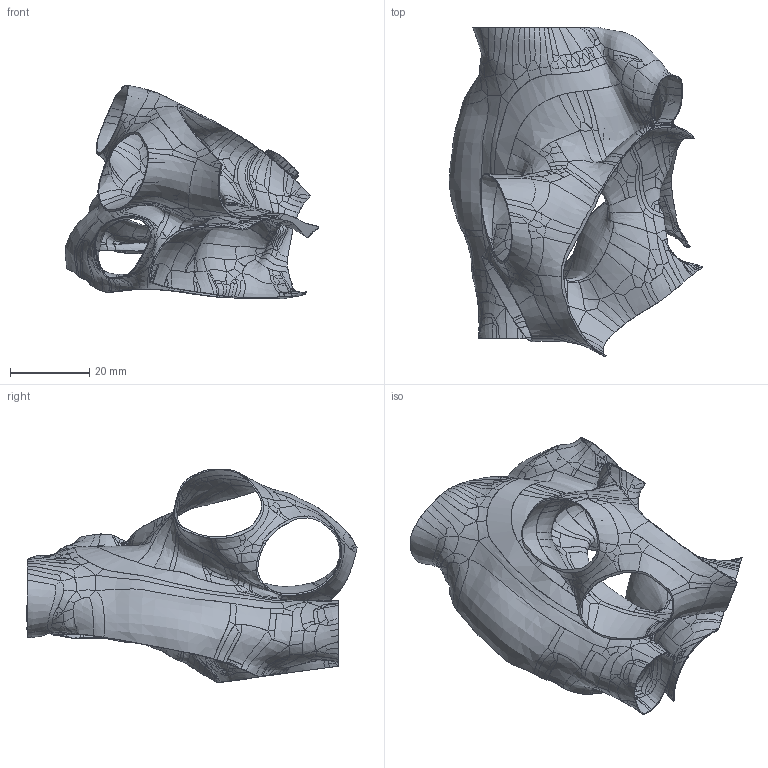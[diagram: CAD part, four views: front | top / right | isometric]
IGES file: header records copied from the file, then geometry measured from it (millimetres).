
Global section: file name: C:\FDA-Septal-Models\0026882\0026882.phase.70.igs; native system: Rhinoceros ( Mar  9 2011 ); preprocessor: Trout Lake IGES 012 Mar  9 2011; date: 120229.153220; units: millimetre
Bounding box: 64.08 x 83.46 x 54.05 mm (x, y, z)
Surface area: 21426.3 mm2 (no closed solid volume)
Topology: 0 solids, 0 shells, 1419 faces, 5672 edges, 5668 vertices
Faces by surface type: bspline 1419
